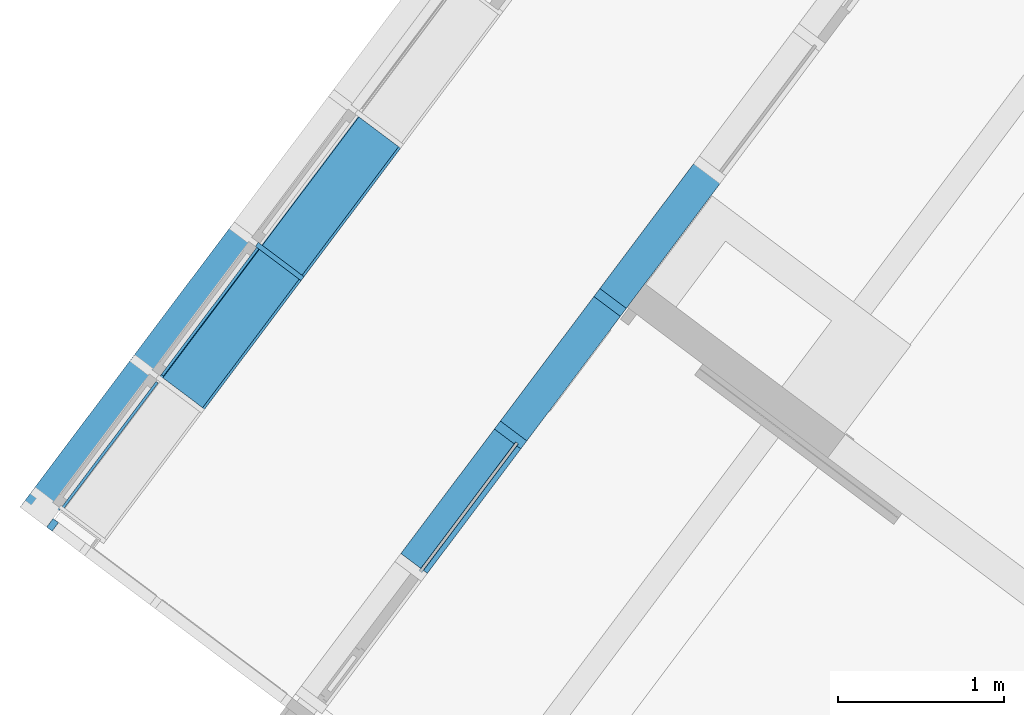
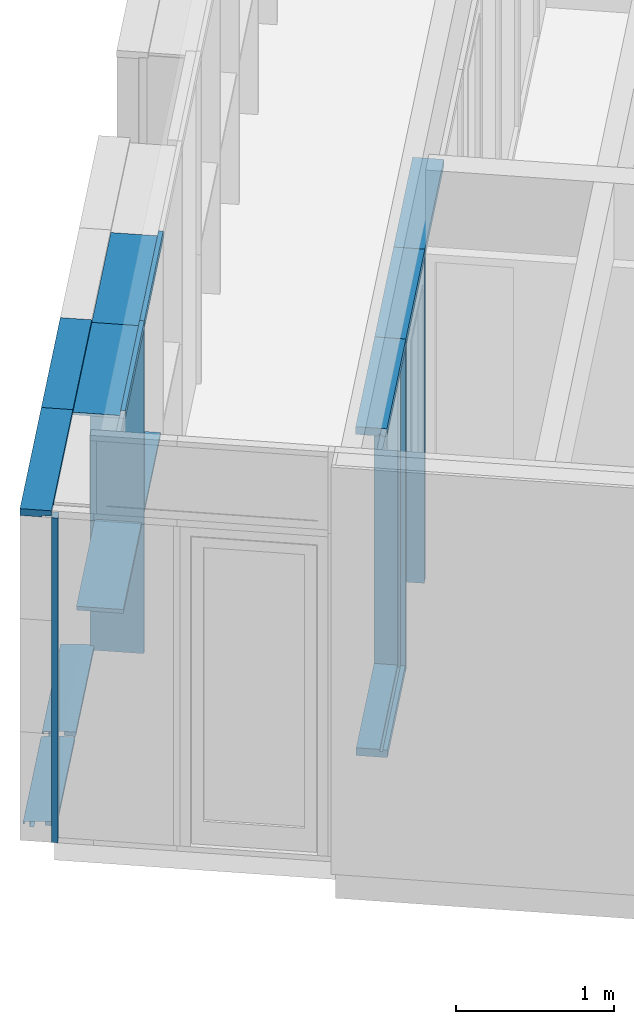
# One storey, part 37 of 243: 17 members, 4 elements without a shape of their own.
"""IFC2X3 building model written with IfcOpenShell, lengths in metres."""

from ifc_helpers import new_model, entity, si_unit, converted_unit, derived_unit, direction, frame, frame_2d, origin, place, context, subcontext, project, spatial, polyline, circle_curve, parameter, trimmed, segment, composite_curve, rectangle, outline, extrude, source, transform, mapped, material, type_object, type_shapes, element, aggregate, save


model = new_model("IFC2X3")

# Units and contexts
model_context = context("Model", 3, precision=1e-05, world=origin(), true_north=direction((6.123031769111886e-17, 1.0)))
body_context = subcontext(model_context, "Body", "Model", "MODEL_VIEW")
ifc_project = project(units=[si_unit("LENGTHUNIT", "METRE"), si_unit("AREAUNIT", "SQUARE_METRE"), si_unit("VOLUMEUNIT", "CUBIC_METRE"), converted_unit("PLANEANGLEUNIT", "DEGREE", entity("IfcRatioMeasure", 0.017453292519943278), si_unit("PLANEANGLEUNIT", "RADIAN"), dimensions=[0, 0, 0, 0, 0, 0, 0]), si_unit("MASSUNIT", "GRAM", prefix="KILO"), derived_unit("MASSDENSITYUNIT", [(si_unit("MASSUNIT", "GRAM", prefix="KILO"), 1), (si_unit("LENGTHUNIT", "METRE"), -3)]), derived_unit("IONCONCENTRATIONUNIT", [(si_unit("MASSUNIT", "GRAM", prefix="KILO"), 1), (si_unit("LENGTHUNIT", "METRE"), -3)]), derived_unit("MOMENTOFINERTIAUNIT", [(si_unit("LENGTHUNIT", "METRE"), 4)]), si_unit("TIMEUNIT", "SECOND"), si_unit("FREQUENCYUNIT", "HERTZ"), si_unit("THERMODYNAMICTEMPERATUREUNIT", "DEGREE_CELSIUS"), derived_unit("THERMALTRANSMITTANCEUNIT", [(si_unit("MASSUNIT", "GRAM", prefix="KILO"), 1), (si_unit("THERMODYNAMICTEMPERATUREUNIT", "KELVIN"), -1), (si_unit("TIMEUNIT", "SECOND"), -3)]), derived_unit("THERMALCONDUCTANCEUNIT", [(si_unit("MASSUNIT", "GRAM", prefix="KILO"), 1), (si_unit("THERMODYNAMICTEMPERATUREUNIT", "KELVIN"), -1), (si_unit("TIMEUNIT", "SECOND"), -3), (si_unit("LENGTHUNIT", "METRE"), 1)]), derived_unit("VOLUMETRICFLOWRATEUNIT", [(si_unit("LENGTHUNIT", "METRE"), 3), (si_unit("TIMEUNIT", "SECOND"), -1)]), derived_unit("MASSFLOWRATEUNIT", [(si_unit("MASSUNIT", "GRAM", prefix="KILO"), 1), (si_unit("TIMEUNIT", "SECOND"), -1)]), derived_unit("ROTATIONALFREQUENCYUNIT", [(si_unit("TIMEUNIT", "SECOND"), -1)]), si_unit("ELECTRICCURRENTUNIT", "AMPERE"), si_unit("ELECTRICVOLTAGEUNIT", "VOLT"), si_unit("POWERUNIT", "WATT"), si_unit("FORCEUNIT", "NEWTON", prefix="KILO"), si_unit("ILLUMINANCEUNIT", "LUX"), si_unit("LUMINOUSFLUXUNIT", "LUMEN"), si_unit("LUMINOUSINTENSITYUNIT", "CANDELA"), derived_unit("USERDEFINED", [(si_unit("MASSUNIT", "GRAM", prefix="KILO"), -1), (si_unit("LENGTHUNIT", "METRE"), -2), (si_unit("TIMEUNIT", "SECOND"), 3), (si_unit("LUMINOUSFLUXUNIT", "LUMEN"), 1)]), derived_unit("USERDEFINED", [(si_unit("MASSUNIT", "GRAM", prefix="KILO"), 1), (si_unit("TIMEUNIT", "SECOND"), -3), (si_unit("LENGTHUNIT", "METRE"), 3), (si_unit("ELECTRICCURRENTUNIT", "AMPERE"), -2)]), derived_unit("SOUNDPOWERUNIT", [(si_unit("MASSUNIT", "GRAM", prefix="KILO"), 1), (si_unit("TIMEUNIT", "SECOND"), -3), (si_unit("LENGTHUNIT", "METRE"), 2)]), derived_unit("SOUNDPRESSUREUNIT", [(si_unit("MASSUNIT", "GRAM", prefix="KILO"), 1), (si_unit("LENGTHUNIT", "METRE"), -1), (si_unit("TIMEUNIT", "SECOND"), -2)]), derived_unit("LINEARVELOCITYUNIT", [(si_unit("LENGTHUNIT", "METRE"), 1), (si_unit("TIMEUNIT", "SECOND"), -1)]), si_unit("PRESSUREUNIT", "PASCAL"), derived_unit("USERDEFINED", [(si_unit("MASSUNIT", "GRAM", prefix="KILO"), 1), (si_unit("LENGTHUNIT", "METRE"), -2), (si_unit("TIMEUNIT", "SECOND"), -2)]), derived_unit("LINEARFORCEUNIT", [(si_unit("MASSUNIT", "GRAM", prefix="KILO"), 1), (si_unit("TIMEUNIT", "SECOND"), -2)]), derived_unit("PLANARFORCEUNIT", [(si_unit("MASSUNIT", "GRAM", prefix="KILO"), 1), (si_unit("LENGTHUNIT", "METRE"), -1), (si_unit("TIMEUNIT", "SECOND"), -2)]), derived_unit("SPECIFICHEATCAPACITYUNIT", [(si_unit("THERMODYNAMICTEMPERATUREUNIT", "KELVIN"), -1), (si_unit("LENGTHUNIT", "METRE"), 2), (si_unit("TIMEUNIT", "SECOND"), -2)]), derived_unit("HEATINGVALUEUNIT", [(si_unit("LENGTHUNIT", "METRE"), 2), (si_unit("TIMEUNIT", "SECOND"), -2)]), derived_unit("VAPORPERMEABILITYUNIT", [(si_unit("LENGTHUNIT", "METRE"), -1), (si_unit("TIMEUNIT", "SECOND"), 1)]), derived_unit("DYNAMICVISCOSITYUNIT", [(si_unit("MASSUNIT", "GRAM", prefix="KILO"), 1), (si_unit("TIMEUNIT", "SECOND"), -1), (si_unit("LENGTHUNIT", "METRE"), -1)]), derived_unit("THERMALEXPANSIONCOEFFICIENTUNIT", [(si_unit("THERMODYNAMICTEMPERATUREUNIT", "KELVIN"), -1)]), derived_unit("MODULUSOFELASTICITYUNIT", [(si_unit("MASSUNIT", "GRAM", prefix="KILO"), 1), (si_unit("LENGTHUNIT", "METRE"), -1), (si_unit("TIMEUNIT", "SECOND"), -2)]), derived_unit("ISOTHERMALMOISTURECAPACITYUNIT", [(si_unit("LENGTHUNIT", "METRE"), 3), (si_unit("MASSUNIT", "GRAM", prefix="KILO"), -1)]), derived_unit("MOISTUREDIFFUSIVITYUNIT", [(si_unit("TIMEUNIT", "SECOND"), -1), (si_unit("LENGTHUNIT", "METRE"), 2)])], contexts=[model_context])

# Site, building, storey
site_placement = place(None, frame((0.0, 0.0, 235.0), z_axis=(0.0, 0.0, 1.0), x_axis=(-0.7996477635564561, 0.6004693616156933, 0.0)))
site = spatial("IfcSite", under=ifc_project, at=site_placement, Name="Default", CompositionType="ELEMENT")
building_placement = place(site_placement, origin())
building = spatial("IfcBuilding", under=site, at=building_placement, CompositionType="ELEMENT")
storey_placement = place(building_placement, origin())
storey = spatial("IfcBuildingStorey", under=building, at=storey_placement, Name="P0- Escola", CompositionType="ELEMENT", Elevation=0.0)

# Curtain wall, members
curtain_wall_type_1 = type_object("IfcCurtainWallType", Name="Muro cortina:MC- INT- a1", PredefinedType="NOTDEFINED")
curtain_wall_1_placement = place(storey_placement, origin())
curtain_wall_1 = element("IfcCurtainWall", 1, at=curtain_wall_1_placement, inside=storey, type_object=curtain_wall_type_1, Name="Muro cortina:MC- INT- a1", ObjectType="Muro cortina:MC- INT- a1")
ifc_material_1 = material(Name="_Fusta massisa- T1")
member_type_1 = type_object("IfcMemberType", Name="Montante rectangular:MC- Fusta- 20x6 cm- Esquerra", PredefinedType="MULLION", material=ifc_material_1)
shared_shape_1 = source(origin(), body_context, "Body", "SweptSolid", [
    extrude(outline(polyline([(-0.07000000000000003, -0.01875000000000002), (-0.04000000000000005, -0.01875000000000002), (-0.04000000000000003, -0.0037500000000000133), (-0.020000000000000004, -0.0037500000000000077), (-0.02, -0.018750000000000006), (0.13, -0.018749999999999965), (0.12999999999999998, 0.04125000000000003), (-0.06999999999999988, 0.04124999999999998), (-0.07000000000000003, -0.01875000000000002)])), frame((-0.01124999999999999, -0.03, -2.5050000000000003), z_axis=(0.0, 0.0, 1.0), x_axis=(0.0, -1.0, 0.0)), (0.0, 0.0, 1.0), 2.5050000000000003),
])
type_shapes(member_type_1, [shared_shape_1])
member_1_placement = place(curtain_wall_1_placement, frame((72.72014768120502, -22.415189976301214, 0.0), z_axis=(0.0, 0.0, -1.0), x_axis=(0.0, -1.0, 0.0)))
member_1 = element("IfcMember", 2, at=member_1_placement, type_object=member_type_1, material=ifc_material_1, Name="Montante rectangular:MC- Fusta- 20x6 cm- Esquerra", ObjectType="Montante rectangular:MC- Fusta- 20x6 cm- Esquerra", context=body_context, shape_type="MappedRepresentation", body=[
    mapped(shared_shape_1, transform((0.0, 0.0, 0.0), scale=1.0)),
])
member_type_2 = type_object("IfcMemberType", Name="Montante rectangular:MC- Fusta- 20x6 cm- Esquerra", PredefinedType="MULLION", material=ifc_material_1)
shared_shape_2 = source(origin(), body_context, "Body", "SweptSolid", [
    extrude(outline(polyline([(-0.07000000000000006, -0.01875000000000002), (-0.04000000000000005, -0.01875000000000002), (-0.04000000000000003, -0.0037500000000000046), (-0.02, -0.0037500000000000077), (-0.019999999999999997, -0.018750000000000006), (0.13, -0.018749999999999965), (0.12999999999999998, 0.04125000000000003), (-0.06999999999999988, 0.04124999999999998), (-0.07000000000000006, -0.01875000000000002)])), frame((-0.041249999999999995, -0.029999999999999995, -1.0), z_axis=(0.0, 0.0, 1.0), x_axis=(0.0, -1.0, 0.0)), (0.0, 0.0, 1.0), 0.9999999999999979),
])
type_shapes(member_type_2, [shared_shape_2])
member_2_placement = place(curtain_wall_1_placement, frame((72.72014768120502, -22.415189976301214, 2.565), z_axis=(0.0, -1.0, 0.0), x_axis=(0.0, 0.0, 1.0)))
member_2 = element("IfcMember", 3, at=member_2_placement, type_object=member_type_2, material=ifc_material_1, Name="Montante rectangular:MC- Fusta- 20x6 cm- Esquerra", ObjectType="Montante rectangular:MC- Fusta- 20x6 cm- Esquerra", context=body_context, shape_type="MappedRepresentation", body=[
    mapped(shared_shape_2, transform((0.0, 0.0, 0.0), scale=1.0)),
])
member_type_3 = type_object("IfcMemberType", Name="Montante rectangular:MC- Fusta- 20x6 cm- Neutre", PredefinedType="MULLION", material=ifc_material_1)
shared_shape_3 = source(origin(), body_context, "Body", "SweptSolid", [
    extrude(rectangle(XDim=0.2, YDim=0.060000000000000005, at=frame_2d((-4.85722573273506e-17, -3.469446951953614e-18), x_axis=(1.0, 0.0))), frame((-0.03, -0.060000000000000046, -1.0), z_axis=(0.0, 0.0, 1.0), x_axis=(0.0, -1.0, 0.0)), (0.0, 0.0, 1.0), 1.0000000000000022),
])
type_shapes(member_type_3, [shared_shape_3])
member_3_placement = place(curtain_wall_1_placement, frame((72.720147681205, -24.41518997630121, 2.565), z_axis=(0.0, -1.0, 0.0), x_axis=(0.0, 0.0, 1.0)))
member_3 = element("IfcMember", 4, at=member_3_placement, type_object=member_type_3, material=ifc_material_1, Name="Montante rectangular:MC- Fusta- 20x6 cm- Neutre", ObjectType="Montante rectangular:MC- Fusta- 20x6 cm- Neutre", context=body_context, shape_type="MappedRepresentation", body=[
    mapped(shared_shape_3, transform((0.0, 0.0, 0.0), scale=1.0)),
])
member_type_4 = type_object("IfcMemberType", Name="Montante rectangular:MC- Fusta- 20x6 cm- Neutre", PredefinedType="MULLION", material=ifc_material_1)
shared_shape_4 = source(origin(), body_context, "Body", "SweptSolid", [
    extrude(rectangle(XDim=0.2, YDim=0.060000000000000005, at=frame_2d((-4.85722573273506e-17, -3.469446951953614e-18), x_axis=(1.0, 0.0))), frame((-0.03, -0.060000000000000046, -1.0), z_axis=(0.0, 0.0, 1.0), x_axis=(0.0, -1.0, 0.0)), (0.0, 0.0, 1.0), 0.9999999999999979),
])
type_shapes(member_type_4, [shared_shape_4])
member_4_placement = place(curtain_wall_1_placement, frame((72.720147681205, -23.415189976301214, 2.565), z_axis=(0.0, -1.0, 0.0), x_axis=(0.0, 0.0, 1.0)))
member_4 = element("IfcMember", 5, at=member_4_placement, type_object=member_type_4, material=ifc_material_1, Name="Montante rectangular:MC- Fusta- 20x6 cm- Neutre", ObjectType="Montante rectangular:MC- Fusta- 20x6 cm- Neutre", context=body_context, shape_type="MappedRepresentation", body=[
    mapped(shared_shape_4, transform((0.0, 0.0, 0.0), scale=1.0)),
])
member_type_5 = type_object("IfcMemberType", Name="Montante rectangular:MC- Fusta- 20x6 cm- Neutre", PredefinedType="MULLION", material=ifc_material_1)
shared_shape_5 = source(origin(), body_context, "Body", "SweptSolid", [
    extrude(rectangle(XDim=0.2, YDim=0.06, at=frame_2d((-4.85722573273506e-17, 0.0), x_axis=(1.0, 0.0))), frame((0.0, -0.060000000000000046, -2.5050000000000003), z_axis=(0.0, 0.0, 1.0), x_axis=(0.0, -1.0, 0.0)), (0.0, 0.0, 1.0), 2.5050000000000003),
])
type_shapes(member_type_5, [shared_shape_5])
member_5_placement = place(curtain_wall_1_placement, frame((72.720147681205, -23.415189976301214, 0.0), z_axis=(0.0, 0.0, -1.0), x_axis=(0.0, -1.0, 0.0)))
member_5 = element("IfcMember", 6, at=member_5_placement, type_object=member_type_5, material=ifc_material_1, Name="Montante rectangular:MC- Fusta- 20x6 cm- Neutre", ObjectType="Montante rectangular:MC- Fusta- 20x6 cm- Neutre", context=body_context, shape_type="MappedRepresentation", body=[
    mapped(shared_shape_5, transform((0.0, 0.0, 0.0), scale=1.0)),
])
member_type_6 = type_object("IfcMemberType", Name="Montante rectangular:MC- Fusta- 20x6 cm- Inferior", PredefinedType="MULLION", material=ifc_material_1)
shared_shape_6 = source(origin(), body_context, "Body", "SweptSolid", [
    extrude(outline(polyline([(-0.06999999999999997, -0.018750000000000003), (-0.039999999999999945, -0.018750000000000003), (-0.03999999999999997, -0.003750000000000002), (-0.019999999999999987, -0.0037500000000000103), (-0.019999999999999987, -0.018750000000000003), (0.13000000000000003, -0.018750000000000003), (0.13000000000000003, 0.041249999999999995), (-0.07000000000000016, 0.041249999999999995), (-0.06999999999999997, -0.018750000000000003)])), frame((-0.041249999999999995, -0.02999999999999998, -0.9399999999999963), z_axis=(0.0, 0.0, 1.0), x_axis=(0.0, -1.0, 0.0)), (0.0, 0.0, 1.0), 0.9399999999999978),
])
type_shapes(member_type_6, [shared_shape_6])
member_6_placement = place(curtain_wall_1_placement, frame((72.72014768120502, -21.44518997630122, 0.0), z_axis=(0.0, 1.0, 0.0), x_axis=(0.0, 0.0, -1.0)))
member_6 = element("IfcMember", 7, at=member_6_placement, type_object=member_type_6, material=ifc_material_1, Name="Montante rectangular:MC- Fusta- 20x6 cm- Inferior", ObjectType="Montante rectangular:MC- Fusta- 20x6 cm- Inferior", context=body_context, shape_type="MappedRepresentation", body=[
    mapped(shared_shape_6, transform((0.0, 0.0, 0.0), scale=1.0)),
])
aggregate(curtain_wall_1, [member_3, member_4, member_5, member_2, member_1, member_6])

curtain_wall_type_2 = type_object("IfcCurtainWallType", Name="Muro cortina:MC- INT- k2", PredefinedType="NOTDEFINED")
curtain_wall_2_placement = place(storey_placement, origin())
curtain_wall_2 = element("IfcCurtainWall", 8, at=curtain_wall_2_placement, inside=storey, type_object=curtain_wall_type_2, Name="Muro cortina:MC- INT- k2", ObjectType="Muro cortina:MC- INT- k2")
member_type_7 = type_object("IfcMemberType", Name="Montante rectangular:MC- Fusta- 35x3 cm- Centre", PredefinedType="MULLION", material=ifc_material_1)
shared_shape_7 = source(origin(), body_context, "Body", "SweptSolid", [
    extrude(rectangle(XDim=0.3450000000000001, YDim=0.030000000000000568, at=frame_2d((0.0, -1.3964523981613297e-16), x_axis=(1.0, 0.0))), frame((0.0, -0.07750000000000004, -1.0), z_axis=(0.0, 0.0, 1.0), x_axis=(0.0, -1.0, 0.0)), (0.0, 0.0, 1.0), 1.0),
])
type_shapes(member_type_7, [shared_shape_7])
member_7_placement = place(curtain_wall_2_placement, frame((74.445147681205, -22.415191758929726, 0.0), z_axis=(0.0, 0.0, -1.0), x_axis=(0.0, -1.0, 0.0)))
member_7 = element("IfcMember", 9, at=member_7_placement, type_object=member_type_7, material=ifc_material_1, Name="Montante rectangular:MC- Fusta- 35x3 cm- Centre", ObjectType="Montante rectangular:MC- Fusta- 35x3 cm- Centre", context=body_context, shape_type="MappedRepresentation", body=[
    mapped(shared_shape_7, transform((0.0, 0.0, 0.0), scale=1.0)),
])
member_type_8 = type_object("IfcMemberType", Name="Montante rectangular:MC- Fusta- 35x3 cm- Pati aules- Remat superior", PredefinedType="MULLION", material=ifc_material_1)
shared_shape_8 = source(origin(), body_context, "Body", "SweptSolid", [
    extrude(outline(polyline([(-0.12166666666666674, -0.02666666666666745), (0.21333333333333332, -0.02666666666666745), (0.2133333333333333, -0.006666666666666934), (-0.09166666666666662, -0.006666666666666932), (-0.09166666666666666, 0.03333333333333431), (-0.12166666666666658, 0.03333333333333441), (-0.12166666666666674, -0.02666666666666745)])), frame((-0.033333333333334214, -0.026666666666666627, -1.0), z_axis=(0.0, 0.0, 1.0), x_axis=(0.0, -1.0, 0.0)), (0.0, 0.0, 1.0), 0.9999999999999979),
])
type_shapes(member_type_8, [shared_shape_8])
member_8_placement = place(curtain_wall_2_placement, frame((74.445147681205, -22.415191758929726, 2.565), z_axis=(0.0, -1.0, 0.0), x_axis=(0.0, 0.0, 1.0)))
member_8 = element("IfcMember", 10, at=member_8_placement, type_object=member_type_8, material=ifc_material_1, Name="Montante rectangular:MC- Fusta- 35x3 cm- Pati aules- Remat superior", ObjectType="Montante rectangular:MC- Fusta- 35x3 cm- Pati aules- Remat superior", context=body_context, shape_type="MappedRepresentation", body=[
    mapped(shared_shape_8, transform((0.0, 0.0, 0.0), scale=1.0)),
])
member_9_placement = place(curtain_wall_2_placement, frame((74.445147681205, -23.415191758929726, 2.565), z_axis=(0.0, -1.0, 0.0), x_axis=(0.0, 0.0, 1.0)))
member_9 = element("IfcMember", 11, at=member_9_placement, type_object=member_type_8, material=ifc_material_1, Name="Montante rectangular:MC- Fusta- 35x3 cm- Pati aules- Remat superior", ObjectType="Montante rectangular:MC- Fusta- 35x3 cm- Pati aules- Remat superior", context=body_context, shape_type="MappedRepresentation", body=[
    mapped(shared_shape_8, transform((0.0, 0.0, 0.0), scale=1.0)),
])
member_type_9 = type_object("IfcMemberType", Name="Montante rectangular:MC- Fusta- 35x3 cm- Pati aules- Prestatge", PredefinedType="MULLION", material=ifc_material_1)
shared_shape_9 = source(origin(), body_context, "Body", "SweptSolid", [
    extrude(rectangle(XDim=0.30000000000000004, YDim=0.03000000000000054, at=frame_2d((0.0, -1.231653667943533e-16), x_axis=(1.0, 0.0))), frame((0.0, -0.07000000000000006, -0.9699999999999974), z_axis=(0.0, 0.0, 1.0), x_axis=(0.0, -1.0, 0.0)), (0.0, 0.0, 1.0), 0.969999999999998),
])
type_shapes(member_type_9, [shared_shape_9])
member_10_placement = place(curtain_wall_2_placement, frame((74.445147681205, -22.400191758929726, 1.0), z_axis=(0.0, -1.0, 0.0), x_axis=(0.0, 0.0, 1.0)))
member_10 = element("IfcMember", 12, at=member_10_placement, type_object=member_type_9, material=ifc_material_1, Name="Montante rectangular:MC- Fusta- 35x3 cm- Pati aules- Prestatge", ObjectType="Montante rectangular:MC- Fusta- 35x3 cm- Pati aules- Prestatge", context=body_context, shape_type="MappedRepresentation", body=[
    mapped(shared_shape_9, transform((0.0, 0.0, 0.0), scale=1.0)),
])
member_11_placement = place(curtain_wall_2_placement, frame((74.445147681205, -23.400191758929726, 1.0), z_axis=(0.0, -1.0, 0.0), x_axis=(0.0, 0.0, 1.0)))
member_11 = element("IfcMember", 13, at=member_11_placement, type_object=member_type_9, material=ifc_material_1, Name="Montante rectangular:MC- Fusta- 35x3 cm- Pati aules- Prestatge", ObjectType="Montante rectangular:MC- Fusta- 35x3 cm- Pati aules- Prestatge", context=body_context, shape_type="MappedRepresentation", body=[
    mapped(shared_shape_9, transform((0.0, 0.0, 0.0), scale=1.0)),
])
member_type_10 = type_object("IfcMemberType", Name="Montante rectangular:MC- Fusta- 35x3 cm- Centre", PredefinedType="MULLION", material=ifc_material_1)
shared_shape_10 = source(origin(), body_context, "Body", "SweptSolid", [
    extrude(rectangle(XDim=0.3450000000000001, YDim=0.030000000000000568, at=frame_2d((0.0, -1.3964523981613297e-16), x_axis=(1.0, 0.0))), frame((0.0, -0.07750000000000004, -1.504999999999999), z_axis=(0.0, 0.0, 1.0), x_axis=(0.0, -1.0, 0.0)), (0.0, 0.0, 1.0), 1.504999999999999),
])
type_shapes(member_type_10, [shared_shape_10])
member_12_placement = place(curtain_wall_2_placement, frame((74.445147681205, -22.415191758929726, 1.0), z_axis=(0.0, 0.0, -1.0), x_axis=(0.0, -1.0, 0.0)))
member_12 = element("IfcMember", 14, at=member_12_placement, type_object=member_type_10, material=ifc_material_1, Name="Montante rectangular:MC- Fusta- 35x3 cm- Centre", ObjectType="Montante rectangular:MC- Fusta- 35x3 cm- Centre", context=body_context, shape_type="MappedRepresentation", body=[
    mapped(shared_shape_10, transform((0.0, 0.0, 0.0), scale=1.0)),
])
aggregate(curtain_wall_2, [member_8, member_7, member_9, member_10, member_11, member_12])

# Curtain wall, member
curtain_wall_type_3 = type_object("IfcCurtainWallType", Name="Muro cortina:MC- EXT- AL1- Fa porxo", PredefinedType="NOTDEFINED")
curtain_wall_3_placement = place(storey_placement, origin())
curtain_wall_3 = element("IfcCurtainWall", 15, at=curtain_wall_3_placement, inside=storey, type_object=curtain_wall_type_3, Name="Muro cortina:MC- EXT- AL1- Fa porxo", ObjectType="Muro cortina:MC- EXT- AL1- Fa porxo")
ifc_material_2 = material(Name="_Alumini- T1- Perfil")
member_type_11 = type_object("IfcMemberType", Name="Montante rectangular:MC- Alu- 65x41 cm- Fa Porxo- Centre", PredefinedType="MULLION", material=ifc_material_2)
shared_shape_11 = source(origin(), body_context, "Body", "SweptSolid", [
    extrude(rectangle(XDim=0.06500000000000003, YDim=0.041000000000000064, at=frame_2d((3.469446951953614e-18, -5.204170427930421e-18), x_axis=(1.0, 0.0))), frame((-0.020499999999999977, -0.032499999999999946, -2.5122499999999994), z_axis=(0.0, 0.0, 1.0), x_axis=(0.0, -1.0, 0.0)), (0.0, 0.0, 1.0), 2.5122499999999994),
])
type_shapes(member_type_11, [shared_shape_11])
member_13_placement = place(curtain_wall_3_placement, frame((74.68514768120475, -20.28894175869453, 2.49225)))
member_13 = element("IfcMember", 16, at=member_13_placement, type_object=member_type_11, material=ifc_material_2, Name="Montante rectangular:MC- Alu- 65x41 cm- Fa Porxo- Centre", ObjectType="Montante rectangular:MC- Alu- 65x41 cm- Fa Porxo- Centre", context=body_context, shape_type="MappedRepresentation", body=[
    mapped(shared_shape_11, transform((0.0, 0.0, 0.0), scale=1.0)),
])
aggregate(curtain_wall_3, [member_13])

# Curtain wall, members
curtain_wall_type_4 = type_object("IfcCurtainWallType", Name="Muro cortina:MC- EXT- MC5", PredefinedType="NOTDEFINED")
curtain_wall_4_placement = place(storey_placement, origin())
curtain_wall_4 = element("IfcCurtainWall", 17, at=curtain_wall_4_placement, inside=storey, type_object=curtain_wall_type_4, Name="Muro cortina:MC- EXT- MC5", ObjectType="Muro cortina:MC- EXT- MC5")
member_type_12 = type_object("IfcMemberType", Name="Montante rectangular:MC- Alu- 140x52,5 cm- Fa patis- inferior", PredefinedType="MULLION", material=ifc_material_2)
shared_shape_12 = source(origin(), body_context, "Body", "SweptSolid", [
    extrude(outline(composite_curve([segment(polyline([(-0.144167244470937, -0.02586710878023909), (-0.12786724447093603, -0.025867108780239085)]), True, "CONTINUOUS"), segment(polyline([(-0.12786724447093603, -0.025867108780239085), (-0.12786724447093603, -0.02316710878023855)]), True, "CONTINUOUS"), segment(polyline([(-0.12786724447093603, -0.02316710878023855), (-0.0678672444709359, -0.02316710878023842)]), True, "CONTINUOUS"), segment(polyline([(-0.0678672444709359, -0.02316710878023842), (0.07031215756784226, -0.010722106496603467)]), True, "CONTINUOUS"), segment(trimmed(circle_curve(frame_2d((0.07013275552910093, -0.008730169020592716), x_axis=(0.0897010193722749, -0.9959687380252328)), 0.0019999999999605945), [parameter(0.0)], [parameter(84.8535928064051)], True, "PARAMETER"), True, "CONTINUOUS"), segment(polyline([(0.07213275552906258, -0.00873016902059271), (0.07213275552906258, 0.0062663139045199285)]), True, "CONTINUOUS"), segment(trimmed(circle_curve(frame_2d((0.070132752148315, 0.006266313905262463), x_axis=(1.0, 0.0)), 0.002000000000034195), [parameter(0.0)], [parameter(90.00000002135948)], True, "PARAMETER"), True, "CONTINUOUS"), segment(polyline([(0.070132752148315, 0.00826631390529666), (0.06213275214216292, 0.008266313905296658)]), True, "CONTINUOUS"), segment(polyline([(0.06213275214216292, 0.008266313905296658), (0.06213275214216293, 0.006266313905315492)]), True, "CONTINUOUS"), segment(polyline([(0.06213275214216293, 0.006266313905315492), (0.06963275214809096, 0.006266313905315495)]), True, "CONTINUOUS"), segment(trimmed(circle_curve(frame_2d((0.06963275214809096, 0.005766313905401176), x_axis=(0.0, 1.0)), 0.0004999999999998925), [parameter(269.99999999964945)], [parameter(0.0)], True, "PARAMETER"), False, "CONTINUOUS"), segment(polyline([(0.07013275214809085, 0.0057663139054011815), (0.07013275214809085, -0.008730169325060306)]), True, "CONTINUOUS"), segment(polyline([(0.07013275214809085, -0.008730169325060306), (0.03213275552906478, -0.012152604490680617)]), True, "CONTINUOUS"), segment(polyline([(0.03213275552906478, -0.012152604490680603), (0.03213275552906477, 0.02913289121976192)]), True, "CONTINUOUS"), segment(polyline([(0.03213275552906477, 0.02913289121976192), (0.0021327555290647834, 0.02913289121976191)]), True, "CONTINUOUS"), segment(polyline([(0.0021327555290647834, 0.02913289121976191), (0.0021327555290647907, 0.027132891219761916)]), True, "CONTINUOUS"), segment(polyline([(0.0021327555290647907, 0.027132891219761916), (0.03013275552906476, 0.027132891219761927)]), True, "CONTINUOUS"), segment(polyline([(0.03013275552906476, 0.02713289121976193), (0.03013275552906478, -0.012332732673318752)]), True, "CONTINUOUS"), segment(polyline([(0.03013275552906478, -0.012332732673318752), (-0.06786724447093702, -0.021159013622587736)]), True, "CONTINUOUS"), segment(polyline([(-0.06786724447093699, -0.021159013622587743), (-0.067867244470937, 0.0091328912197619)]), True, "CONTINUOUS"), segment(polyline([(-0.06786724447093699, 0.0091328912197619), (-0.14416724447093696, 0.009132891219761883)]), True, "CONTINUOUS"), segment(polyline([(-0.14416724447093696, 0.009132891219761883), (-0.144167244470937, -0.02586710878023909)]), True, "CONTINUOUS")], self_intersect=False)), frame((-0.029132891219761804, -0.06786724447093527, -0.9474999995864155), z_axis=(0.0, 0.0, 1.0), x_axis=(0.0, -1.0, 0.0)), (0.0, 0.0, 1.0), 0.9474999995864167),
])
type_shapes(member_type_12, [shared_shape_12])
member_14_placement = place(curtain_wall_4_placement, frame((74.7451476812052, -20.44144175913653, -0.02), z_axis=(0.0, 1.0, 0.0), x_axis=(0.0, 0.0, -1.0)))
member_14 = element("IfcMember", 18, at=member_14_placement, type_object=member_type_12, material=ifc_material_2, Name="Montante rectangular:MC- Alu- 140x52,5 cm- Fa patis- inferior", ObjectType="Montante rectangular:MC- Alu- 140x52,5 cm- Fa patis- inferior", context=body_context, shape_type="MappedRepresentation", body=[
    mapped(shared_shape_12, transform((0.0, 0.0, 0.0), scale=1.0)),
])
member_type_13 = type_object("IfcMemberType", Name="Montante rectangular:MC- Alu- 140x52,5 cm- Fa patis- Superior", PredefinedType="MULLION", material=ifc_material_2)
shared_shape_13 = source(origin(), body_context, "Body", "SweptSolid", [
    extrude(outline(polyline([(-0.026333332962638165, -0.021249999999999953), (0.11366666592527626, -0.021249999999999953), (0.11366666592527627, 0.031250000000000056), (-0.08733333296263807, 0.03125000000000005), (-0.0873333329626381, -0.010000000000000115), (-0.026333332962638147, -0.010000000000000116), (-0.026333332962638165, -0.021249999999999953)])), frame((-0.031250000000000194, -0.02733333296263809, -1.1262500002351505), z_axis=(0.0, 0.0, 1.0), x_axis=(0.0, -1.0, 0.0)), (0.0, 0.0, 1.0), 1.1262500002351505),
])
type_shapes(member_type_13, [shared_shape_13])
member_15_placement = place(curtain_wall_4_placement, frame((74.7451476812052, -21.41519175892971, 2.545), z_axis=(0.0, -1.0, 0.0), x_axis=(0.0, 0.0, 1.0)))
member_15 = element("IfcMember", 19, at=member_15_placement, type_object=member_type_13, material=ifc_material_2, Name="Montante rectangular:MC- Alu- 140x52,5 cm- Fa patis- Superior", ObjectType="Montante rectangular:MC- Alu- 140x52,5 cm- Fa patis- Superior", context=body_context, shape_type="MappedRepresentation", body=[
    mapped(shared_shape_13, transform((0.0, 0.0, 0.0), scale=1.0)),
])
member_type_14 = type_object("IfcMemberType", Name="Montante rectangular:MC- Alu- 140x52,5 cm- Fa patis- inferior", PredefinedType="MULLION", material=ifc_material_2)
shared_shape_14 = source(origin(), body_context, "Body", "SweptSolid", [
    extrude(outline(composite_curve([segment(polyline([(-0.144167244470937, -0.025867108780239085), (-0.12786724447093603, -0.02586710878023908)]), True, "CONTINUOUS"), segment(polyline([(-0.12786724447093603, -0.02586710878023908), (-0.12786724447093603, -0.023167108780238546)]), True, "CONTINUOUS"), segment(polyline([(-0.12786724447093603, -0.023167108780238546), (-0.0678672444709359, -0.023167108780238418)]), True, "CONTINUOUS"), segment(polyline([(-0.0678672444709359, -0.023167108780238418), (0.07031215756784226, -0.010722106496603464)]), True, "CONTINUOUS"), segment(trimmed(circle_curve(frame_2d((0.07013275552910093, -0.008730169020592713), x_axis=(0.0897010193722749, -0.9959687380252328)), 0.0019999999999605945), [parameter(0.0)], [parameter(84.8535928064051)], True, "PARAMETER"), True, "CONTINUOUS"), segment(polyline([(0.07213275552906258, -0.008730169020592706), (0.07213275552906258, 0.006266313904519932)]), True, "CONTINUOUS"), segment(trimmed(circle_curve(frame_2d((0.07013275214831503, 0.006266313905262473), x_axis=(1.0, 0.0)), 0.0020000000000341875), [parameter(0.0)], [parameter(90.00000002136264)], True, "PARAMETER"), True, "CONTINUOUS"), segment(polyline([(0.070132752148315, 0.008266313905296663), (0.06213275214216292, 0.008266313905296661)]), True, "CONTINUOUS"), segment(polyline([(0.06213275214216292, 0.008266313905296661), (0.06213275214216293, 0.006266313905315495)]), True, "CONTINUOUS"), segment(polyline([(0.06213275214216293, 0.006266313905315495), (0.06963275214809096, 0.006266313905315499)]), True, "CONTINUOUS"), segment(trimmed(circle_curve(frame_2d((0.06963275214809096, 0.005766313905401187), x_axis=(0.0, 1.0)), 0.0004999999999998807), [parameter(269.9999999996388)], [parameter(0.0)], True, "PARAMETER"), False, "CONTINUOUS"), segment(polyline([(0.07013275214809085, 0.005766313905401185), (0.07013275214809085, -0.008730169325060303)]), True, "CONTINUOUS"), segment(polyline([(0.07013275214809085, -0.008730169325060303), (0.03213275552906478, -0.012152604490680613)]), True, "CONTINUOUS"), segment(polyline([(0.03213275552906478, -0.0121526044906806), (0.03213275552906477, 0.029132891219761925)]), True, "CONTINUOUS"), segment(polyline([(0.03213275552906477, 0.029132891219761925), (0.0021327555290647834, 0.029132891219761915)]), True, "CONTINUOUS"), segment(polyline([(0.0021327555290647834, 0.029132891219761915), (0.0021327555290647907, 0.02713289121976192)]), True, "CONTINUOUS"), segment(polyline([(0.0021327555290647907, 0.02713289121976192), (0.03013275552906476, 0.02713289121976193)]), True, "CONTINUOUS"), segment(polyline([(0.03013275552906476, 0.027132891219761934), (0.03013275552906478, -0.012332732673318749)]), True, "CONTINUOUS"), segment(polyline([(0.03013275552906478, -0.012332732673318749), (-0.06786724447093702, -0.021159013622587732)]), True, "CONTINUOUS"), segment(polyline([(-0.06786724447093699, -0.02115901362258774), (-0.067867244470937, 0.009132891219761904)]), True, "CONTINUOUS"), segment(polyline([(-0.06786724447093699, 0.009132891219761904), (-0.14416724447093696, 0.009132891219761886)]), True, "CONTINUOUS"), segment(polyline([(-0.14416724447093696, 0.009132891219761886), (-0.144167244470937, -0.025867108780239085)]), True, "CONTINUOUS")], self_intersect=False)), frame((-0.029132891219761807, -0.06786724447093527, -0.9737499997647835), z_axis=(0.0, 0.0, 1.0), x_axis=(0.0, -1.0, 0.0)), (0.0, 0.0, 1.0), 0.9737499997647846),
])
type_shapes(member_type_14, [shared_shape_14])
member_16_placement = place(curtain_wall_4_placement, frame((74.7451476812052, -21.44144175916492, -0.02), z_axis=(0.0, 1.0, 0.0), x_axis=(0.0, 0.0, -1.0)))
member_16 = element("IfcMember", 20, at=member_16_placement, type_object=member_type_14, material=ifc_material_2, Name="Montante rectangular:MC- Alu- 140x52,5 cm- Fa patis- inferior", ObjectType="Montante rectangular:MC- Alu- 140x52,5 cm- Fa patis- inferior", context=body_context, shape_type="MappedRepresentation", body=[
    mapped(shared_shape_14, transform((0.0, 0.0, 0.0), scale=1.0)),
])
member_type_15 = type_object("IfcMemberType", Name="Montante rectangular:MC- Alu- 140x52,5 cm- Fa patis- Superior", PredefinedType="MULLION", material=ifc_material_2)
shared_shape_15 = source(origin(), body_context, "Body", "SweptSolid", [
    extrude(outline(polyline([(-0.026333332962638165, -0.021249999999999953), (0.11366666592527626, -0.021249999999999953), (0.11366666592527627, 0.031250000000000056), (-0.08733333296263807, 0.03125000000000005), (-0.0873333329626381, -0.010000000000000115), (-0.026333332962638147, -0.010000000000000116), (-0.026333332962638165, -0.021249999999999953)])), frame((-0.031250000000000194, -0.02733333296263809, -1.0), z_axis=(0.0, 0.0, 1.0), x_axis=(0.0, -1.0, 0.0)), (0.0, 0.0, 1.0), 1.0000000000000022),
])
type_shapes(member_type_15, [shared_shape_15])
member_17_placement = place(curtain_wall_4_placement, frame((74.7451476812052, -22.415191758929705, 2.545), z_axis=(0.0, -1.0, 0.0), x_axis=(0.0, 0.0, 1.0)))
member_17 = element("IfcMember", 21, at=member_17_placement, type_object=member_type_15, material=ifc_material_2, Name="Montante rectangular:MC- Alu- 140x52,5 cm- Fa patis- Superior", ObjectType="Montante rectangular:MC- Alu- 140x52,5 cm- Fa patis- Superior", context=body_context, shape_type="MappedRepresentation", body=[
    mapped(shared_shape_15, transform((0.0, 0.0, 0.0), scale=1.0)),
])
aggregate(curtain_wall_4, [member_14, member_15, member_16, member_17])

save(model, "model.ifc")
